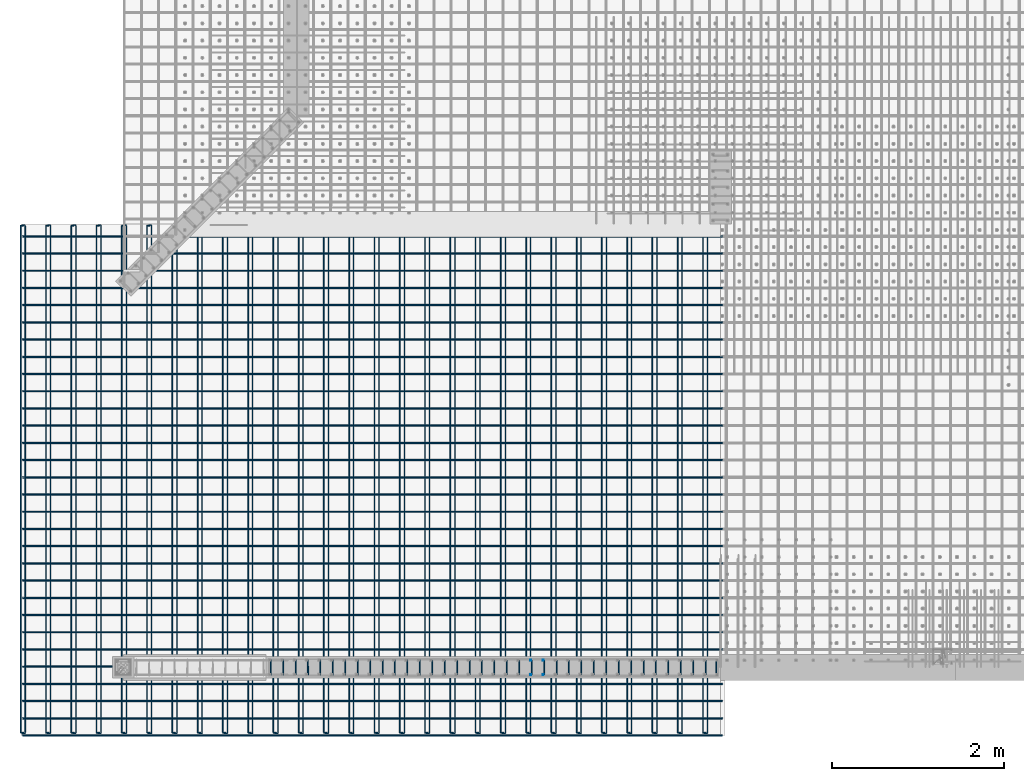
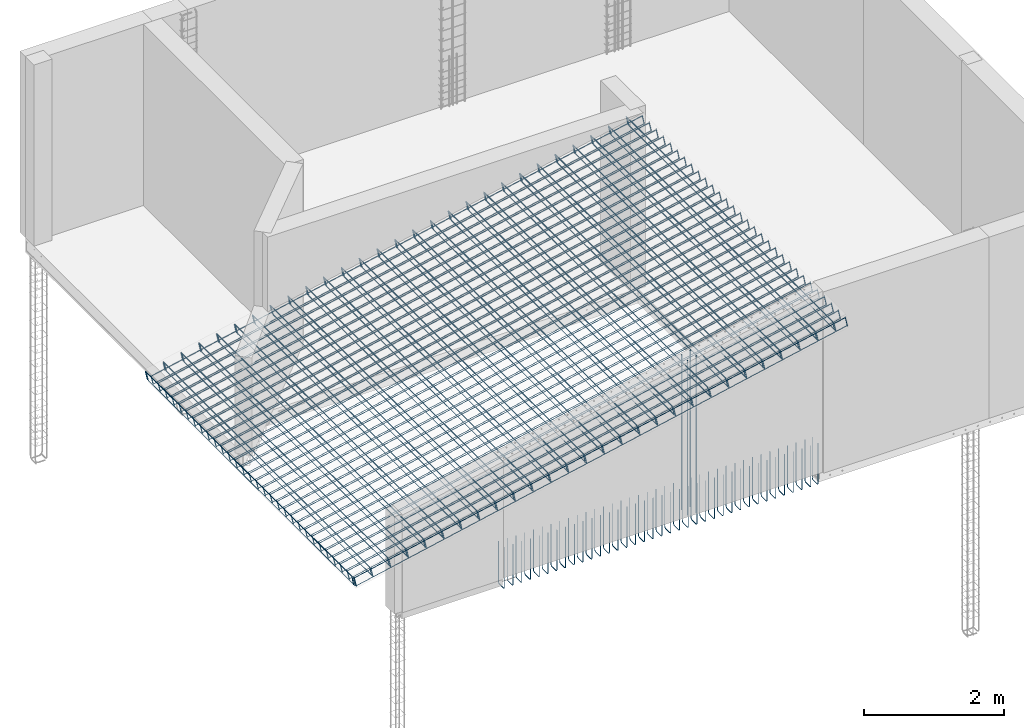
# One storey, part 3 of 17: 7 reinforcing bars.
"""IFC4 building model written with IfcOpenShell, lengths in metres."""

from ifc_helpers import new_model, entity, si_unit, frame, origin_with_axes, place, context, project, spatial, source, transform, mapped, element, save


model = new_model("IFC4")

# Units and contexts
model_context = context("Model", 3, precision=1e-05, world=origin_with_axes())
ifc_project = project(units=[si_unit("LENGTHUNIT", "METRE"), si_unit("AREAUNIT", "SQUARE_METRE"), si_unit("VOLUMEUNIT", "CUBIC_METRE"), si_unit("MASSUNIT", "GRAM", prefix="KILO"), si_unit("TIMEUNIT", "SECOND"), si_unit("PLANEANGLEUNIT", "RADIAN"), si_unit("SOLIDANGLEUNIT", "STERADIAN"), si_unit("THERMODYNAMICTEMPERATUREUNIT", "DEGREE_CELSIUS")], contexts=[model_context])

# Site, building, storey
placement_1 = place(None, origin_with_axes())
site = spatial("IfcSite", under=ifc_project, at=placement_1, Name="Italia", CompositionType="ELEMENT")
building = spatial("IfcBuilding", under=site, at=placement_1, Name="Abitazione", CompositionType="ELEMENT")
storey_placement = place(None, frame((0.0, 0.0, 3.569999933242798), z_axis=(0.0, 0.0, 1.0), x_axis=(1.0, 0.0, 0.0)))
storey = spatial("IfcBuildingStorey", under=building, at=storey_placement, Name="Storey 1", CompositionType="ELEMENT", Elevation=3.569999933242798)

# Reinforcing bars
shared_shape_1 = source(origin_with_axes(), model_context, "Body", "AdvancedSweptSolid", [
    entity("IfcSweptDiskSolid", entity("IfcIndexedPolyCurve", entity("IfcCartesianPointList3D", [[8.077, 0.874, 4.07], [8.077, 0.874, 3.375], [8.077, 0.871716, 3.36352], [8.077, 0.865213, 3.35379], [8.077, 0.855481, 3.34728], [8.077, 0.844, 3.345], [8.077, 0.774, 3.345]]), [entity("IfcLineIndex", [1, 2]), entity("IfcLineIndex", [2, 3]), entity("IfcLineIndex", [3, 4]), entity("IfcLineIndex", [4, 5]), entity("IfcLineIndex", [5, 6]), entity("IfcLineIndex", [6, 7])], False), 0.006),
])
placement_2 = place(placement_1, origin_with_axes())
reinforcing_bar_1_placement = place(placement_2, origin_with_axes())
element("IfcReinforcingBar", 1, at=reinforcing_bar_1_placement, inside=storey, BarLength=0.811821, CrossSectionArea=0.0001131, NominalDiameter=0.012, context=model_context, shape_type="MappedRepresentation", body=[
    mapped(shared_shape_1, transform((-2.575, 0.0, 0.0), x_axis=(1.0, 0.0, 0.0), y_axis=(0.0, 1.0, 0.0), z_axis=(0.0, 0.0, 1.0), scale=1.0)),
    mapped(shared_shape_1, transform((13.7234, 1.58, 0.0), x_axis=(-1.0, 0.0, 0.0), y_axis=(0.0, -1.0, 0.0), z_axis=(0.0, 0.0, 1.0), scale=1.0)),
    mapped(shared_shape_1, transform((14.4453, 1.58, 0.0), x_axis=(-1.0, 0.0, 0.0), y_axis=(0.0, -1.0, 0.0), z_axis=(0.0, 0.0, 1.0), scale=1.0)),
    mapped(shared_shape_1, transform((-1.70867, 0.0, 0.0), x_axis=(1.0, 0.0, 0.0), y_axis=(0.0, 1.0, 0.0), z_axis=(0.0, 0.0, 1.0), scale=1.0)),
    mapped(shared_shape_1, transform((14.5897, 1.58, 0.0), x_axis=(-1.0, 0.0, 0.0), y_axis=(0.0, -1.0, 0.0), z_axis=(0.0, 0.0, 1.0), scale=1.0)),
    mapped(shared_shape_1, transform((-1.56428, 0.0, 0.0), x_axis=(1.0, 0.0, 0.0), y_axis=(0.0, 1.0, 0.0), z_axis=(0.0, 0.0, 1.0), scale=1.0)),
    mapped(shared_shape_1, transform((14.7341, 1.58, 0.0), x_axis=(-1.0, 0.0, 0.0), y_axis=(0.0, -1.0, 0.0), z_axis=(0.0, 0.0, 1.0), scale=1.0)),
    mapped(shared_shape_1, transform((-1.41989, 0.0, 0.0), x_axis=(1.0, 0.0, 0.0), y_axis=(0.0, 1.0, 0.0), z_axis=(0.0, 0.0, 1.0), scale=1.0)),
    mapped(shared_shape_1, transform((14.8785, 1.58, 0.0), x_axis=(-1.0, 0.0, 0.0), y_axis=(0.0, -1.0, 0.0), z_axis=(0.0, 0.0, 1.0), scale=1.0)),
    mapped(shared_shape_1, transform((14.3009, 1.58, 0.0), x_axis=(-1.0, 0.0, 0.0), y_axis=(0.0, -1.0, 0.0), z_axis=(0.0, 0.0, 1.0), scale=1.0)),
    mapped(shared_shape_1, transform((-1.85306, 0.0, 0.0), x_axis=(1.0, 0.0, 0.0), y_axis=(0.0, 1.0, 0.0), z_axis=(0.0, 0.0, 1.0), scale=1.0)),
    mapped(shared_shape_1, transform((-2.43061, 0.0, 0.0), x_axis=(1.0, 0.0, 0.0), y_axis=(0.0, 1.0, 0.0), z_axis=(0.0, 0.0, 1.0), scale=1.0)),
    mapped(shared_shape_1, transform((13.8678, 1.58, 0.0), x_axis=(-1.0, 0.0, 0.0), y_axis=(0.0, -1.0, 0.0), z_axis=(0.0, 0.0, 1.0), scale=1.0)),
    mapped(shared_shape_1, transform((-2.28622, 0.0, 0.0), x_axis=(1.0, 0.0, 0.0), y_axis=(0.0, 1.0, 0.0), z_axis=(0.0, 0.0, 1.0), scale=1.0)),
    mapped(shared_shape_1, transform((14.0122, 1.58, 0.0), x_axis=(-1.0, 0.0, 0.0), y_axis=(0.0, -1.0, 0.0), z_axis=(0.0, 0.0, 1.0), scale=1.0)),
    mapped(shared_shape_1, transform((-2.14183, 0.0, 0.0), x_axis=(1.0, 0.0, 0.0), y_axis=(0.0, 1.0, 0.0), z_axis=(0.0, 0.0, 1.0), scale=1.0)),
    mapped(shared_shape_1, transform((14.1566, 1.58, 0.0), x_axis=(-1.0, 0.0, 0.0), y_axis=(0.0, -1.0, 0.0), z_axis=(0.0, 0.0, 1.0), scale=1.0)),
    mapped(shared_shape_1, transform((-1.99744, 0.0, 0.0), x_axis=(1.0, 0.0, 0.0), y_axis=(0.0, 1.0, 0.0), z_axis=(0.0, 0.0, 1.0), scale=1.0)),
    mapped(shared_shape_1, transform((-1.2755, 0.0, 0.0), x_axis=(1.0, 0.0, 0.0), y_axis=(0.0, 1.0, 0.0), z_axis=(0.0, 0.0, 1.0), scale=1.0)),
    mapped(shared_shape_1, transform((15.0229, 1.58, 0.0), x_axis=(-1.0, 0.0, 0.0), y_axis=(0.0, -1.0, 0.0), z_axis=(0.0, 0.0, 1.0), scale=1.0)),
    mapped(shared_shape_1, transform((15.7448, 1.58, 0.0), x_axis=(-1.0, 0.0, 0.0), y_axis=(0.0, -1.0, 0.0), z_axis=(0.0, 0.0, 1.0), scale=1.0)),
    mapped(shared_shape_1, transform((-0.409166, 0.0, 0.0), x_axis=(1.0, 0.0, 0.0), y_axis=(0.0, 1.0, 0.0), z_axis=(0.0, 0.0, 1.0), scale=1.0)),
    mapped(shared_shape_1, transform((15.8892, 1.58, 0.0), x_axis=(-1.0, 0.0, 0.0), y_axis=(0.0, -1.0, 0.0), z_axis=(0.0, 0.0, 1.0), scale=1.0)),
    mapped(shared_shape_1, transform((-0.264778, 0.0, 0.0), x_axis=(1.0, 0.0, 0.0), y_axis=(0.0, 1.0, 0.0), z_axis=(0.0, 0.0, 1.0), scale=1.0)),
    mapped(shared_shape_1, transform((16.0336, 1.58, 0.0), x_axis=(-1.0, 0.0, 0.0), y_axis=(0.0, -1.0, 0.0), z_axis=(0.0, 0.0, 1.0), scale=1.0)),
    mapped(shared_shape_1, transform((-0.120389, 0.0, 0.0), x_axis=(1.0, 0.0, 0.0), y_axis=(0.0, 1.0, 0.0), z_axis=(0.0, 0.0, 1.0), scale=1.0)),
    mapped(shared_shape_1, transform((16.154, 1.58, 0.0), x_axis=(-1.0, 0.0, 0.0), y_axis=(0.0, -1.0, 0.0), z_axis=(0.0, 0.0, 1.0), scale=1.0)),
    mapped(shared_shape_1, transform((15.6004, 1.58, 0.0), x_axis=(-1.0, 0.0, 0.0), y_axis=(0.0, -1.0, 0.0), z_axis=(0.0, 0.0, 1.0), scale=1.0)),
    mapped(shared_shape_1, transform((-0.553555, 0.0, 0.0), x_axis=(1.0, 0.0, 0.0), y_axis=(0.0, 1.0, 0.0), z_axis=(0.0, 0.0, 1.0), scale=1.0)),
    mapped(shared_shape_1, transform((-1.13111, 0.0, 0.0), x_axis=(1.0, 0.0, 0.0), y_axis=(0.0, 1.0, 0.0), z_axis=(0.0, 0.0, 1.0), scale=1.0)),
    mapped(shared_shape_1, transform((15.1673, 1.58, 0.0), x_axis=(-1.0, 0.0, 0.0), y_axis=(0.0, -1.0, 0.0), z_axis=(0.0, 0.0, 1.0), scale=1.0)),
    mapped(shared_shape_1, transform((-0.986722, 0.0, 0.0), x_axis=(1.0, 0.0, 0.0), y_axis=(0.0, 1.0, 0.0), z_axis=(0.0, 0.0, 1.0), scale=1.0)),
    mapped(shared_shape_1, transform((15.3117, 1.58, 0.0), x_axis=(-1.0, 0.0, 0.0), y_axis=(0.0, -1.0, 0.0), z_axis=(0.0, 0.0, 1.0), scale=1.0)),
    mapped(shared_shape_1, transform((-0.842333, 0.0, 0.0), x_axis=(1.0, 0.0, 0.0), y_axis=(0.0, 1.0, 0.0), z_axis=(0.0, 0.0, 1.0), scale=1.0)),
    mapped(shared_shape_1, transform((15.4561, 1.58, 0.0), x_axis=(-1.0, 0.0, 0.0), y_axis=(0.0, -1.0, 0.0), z_axis=(0.0, 0.0, 1.0), scale=1.0)),
    mapped(shared_shape_1, transform((-0.697944, 0.0, 0.0), x_axis=(1.0, 0.0, 0.0), y_axis=(0.0, 1.0, 0.0), z_axis=(0.0, 0.0, 1.0), scale=1.0)),
    mapped(shared_shape_1, transform((0.0, 0.0, 0.0), x_axis=(1.0, 0.0, 0.0), y_axis=(0.0, 1.0, 0.0), z_axis=(0.0, 0.0, 1.0), scale=1.0)),
    mapped(shared_shape_1, transform((10.98, 1.58, 0.0), x_axis=(-1.0, 0.0, 0.0), y_axis=(0.0, -1.0, 0.0), z_axis=(0.0, 0.0, 1.0), scale=1.0)),
    mapped(shared_shape_1, transform((11.7019, 1.58, 0.0), x_axis=(-1.0, 0.0, 0.0), y_axis=(0.0, -1.0, 0.0), z_axis=(0.0, 0.0, 1.0), scale=1.0)),
    mapped(shared_shape_1, transform((-4.45206, 0.0, 0.0), x_axis=(1.0, 0.0, 0.0), y_axis=(0.0, 1.0, 0.0), z_axis=(0.0, 0.0, 1.0), scale=1.0)),
    mapped(shared_shape_1, transform((11.8463, 1.58, 0.0), x_axis=(-1.0, 0.0, 0.0), y_axis=(0.0, -1.0, 0.0), z_axis=(0.0, 0.0, 1.0), scale=1.0)),
    mapped(shared_shape_1, transform((-4.30767, 0.0, 0.0), x_axis=(1.0, 0.0, 0.0), y_axis=(0.0, 1.0, 0.0), z_axis=(0.0, 0.0, 1.0), scale=1.0)),
    mapped(shared_shape_1, transform((11.9907, 1.58, 0.0), x_axis=(-1.0, 0.0, 0.0), y_axis=(0.0, -1.0, 0.0), z_axis=(0.0, 0.0, 1.0), scale=1.0)),
    mapped(shared_shape_1, transform((-4.16328, 0.0, 0.0), x_axis=(1.0, 0.0, 0.0), y_axis=(0.0, 1.0, 0.0), z_axis=(0.0, 0.0, 1.0), scale=1.0)),
    mapped(shared_shape_1, transform((12.1351, 1.58, 0.0), x_axis=(-1.0, 0.0, 0.0), y_axis=(0.0, -1.0, 0.0), z_axis=(0.0, 0.0, 1.0), scale=1.0)),
    mapped(shared_shape_1, transform((11.5576, 1.58, 0.0), x_axis=(-1.0, 0.0, 0.0), y_axis=(0.0, -1.0, 0.0), z_axis=(0.0, 0.0, 1.0), scale=1.0)),
    mapped(shared_shape_1, transform((-4.59644, 0.0, 0.0), x_axis=(1.0, 0.0, 0.0), y_axis=(0.0, 1.0, 0.0), z_axis=(0.0, 0.0, 1.0), scale=1.0)),
    mapped(shared_shape_1, transform((-5.174, 0.0, 0.0), x_axis=(1.0, 0.0, 0.0), y_axis=(0.0, 1.0, 0.0), z_axis=(0.0, 0.0, 1.0), scale=1.0)),
    mapped(shared_shape_1, transform((11.1244, 1.58, 0.0), x_axis=(-1.0, 0.0, 0.0), y_axis=(0.0, -1.0, 0.0), z_axis=(0.0, 0.0, 1.0), scale=1.0)),
    mapped(shared_shape_1, transform((-5.02961, 0.0, 0.0), x_axis=(1.0, 0.0, 0.0), y_axis=(0.0, 1.0, 0.0), z_axis=(0.0, 0.0, 1.0), scale=1.0)),
    mapped(shared_shape_1, transform((11.2688, 1.58, 0.0), x_axis=(-1.0, 0.0, 0.0), y_axis=(0.0, -1.0, 0.0), z_axis=(0.0, 0.0, 1.0), scale=1.0)),
    mapped(shared_shape_1, transform((-4.88522, 0.0, 0.0), x_axis=(1.0, 0.0, 0.0), y_axis=(0.0, 1.0, 0.0), z_axis=(0.0, 0.0, 1.0), scale=1.0)),
    mapped(shared_shape_1, transform((11.4132, 1.58, 0.0), x_axis=(-1.0, 0.0, 0.0), y_axis=(0.0, -1.0, 0.0), z_axis=(0.0, 0.0, 1.0), scale=1.0)),
    mapped(shared_shape_1, transform((-4.74083, 0.0, 0.0), x_axis=(1.0, 0.0, 0.0), y_axis=(0.0, 1.0, 0.0), z_axis=(0.0, 0.0, 1.0), scale=1.0)),
    mapped(shared_shape_1, transform((-4.01889, 0.0, 0.0), x_axis=(1.0, 0.0, 0.0), y_axis=(0.0, 1.0, 0.0), z_axis=(0.0, 0.0, 1.0), scale=1.0)),
    mapped(shared_shape_1, transform((12.2795, 1.58, 0.0), x_axis=(-1.0, 0.0, 0.0), y_axis=(0.0, -1.0, 0.0), z_axis=(0.0, 0.0, 1.0), scale=1.0)),
    mapped(shared_shape_1, transform((13.0014, 1.58, 0.0), x_axis=(-1.0, 0.0, 0.0), y_axis=(0.0, -1.0, 0.0), z_axis=(0.0, 0.0, 1.0), scale=1.0)),
    mapped(shared_shape_1, transform((-3.15256, 0.0, 0.0), x_axis=(1.0, 0.0, 0.0), y_axis=(0.0, 1.0, 0.0), z_axis=(0.0, 0.0, 1.0), scale=1.0)),
    mapped(shared_shape_1, transform((13.1458, 1.58, 0.0), x_axis=(-1.0, 0.0, 0.0), y_axis=(0.0, -1.0, 0.0), z_axis=(0.0, 0.0, 1.0), scale=1.0)),
    mapped(shared_shape_1, transform((-3.00817, 0.0, 0.0), x_axis=(1.0, 0.0, 0.0), y_axis=(0.0, 1.0, 0.0), z_axis=(0.0, 0.0, 1.0), scale=1.0)),
    mapped(shared_shape_1, transform((13.2902, 1.58, 0.0), x_axis=(-1.0, 0.0, 0.0), y_axis=(0.0, -1.0, 0.0), z_axis=(0.0, 0.0, 1.0), scale=1.0)),
    mapped(shared_shape_1, transform((-2.86378, 0.0, 0.0), x_axis=(1.0, 0.0, 0.0), y_axis=(0.0, 1.0, 0.0), z_axis=(0.0, 0.0, 1.0), scale=1.0)),
    mapped(shared_shape_1, transform((13.4346, 1.58, 0.0), x_axis=(-1.0, 0.0, 0.0), y_axis=(0.0, -1.0, 0.0), z_axis=(0.0, 0.0, 1.0), scale=1.0)),
    mapped(shared_shape_1, transform((12.8571, 1.58, 0.0), x_axis=(-1.0, 0.0, 0.0), y_axis=(0.0, -1.0, 0.0), z_axis=(0.0, 0.0, 1.0), scale=1.0)),
    mapped(shared_shape_1, transform((-3.29694, 0.0, 0.0), x_axis=(1.0, 0.0, 0.0), y_axis=(0.0, 1.0, 0.0), z_axis=(0.0, 0.0, 1.0), scale=1.0)),
    mapped(shared_shape_1, transform((-3.8745, 0.0, 0.0), x_axis=(1.0, 0.0, 0.0), y_axis=(0.0, 1.0, 0.0), z_axis=(0.0, 0.0, 1.0), scale=1.0)),
    mapped(shared_shape_1, transform((12.4239, 1.58, 0.0), x_axis=(-1.0, 0.0, 0.0), y_axis=(0.0, -1.0, 0.0), z_axis=(0.0, 0.0, 1.0), scale=1.0)),
    mapped(shared_shape_1, transform((-3.73011, 0.0, 0.0), x_axis=(1.0, 0.0, 0.0), y_axis=(0.0, 1.0, 0.0), z_axis=(0.0, 0.0, 1.0), scale=1.0)),
    mapped(shared_shape_1, transform((12.5683, 1.58, 0.0), x_axis=(-1.0, 0.0, 0.0), y_axis=(0.0, -1.0, 0.0), z_axis=(0.0, 0.0, 1.0), scale=1.0)),
    mapped(shared_shape_1, transform((-3.58572, 0.0, 0.0), x_axis=(1.0, 0.0, 0.0), y_axis=(0.0, 1.0, 0.0), z_axis=(0.0, 0.0, 1.0), scale=1.0)),
    mapped(shared_shape_1, transform((12.7127, 1.58, 0.0), x_axis=(-1.0, 0.0, 0.0), y_axis=(0.0, -1.0, 0.0), z_axis=(0.0, 0.0, 1.0), scale=1.0)),
    mapped(shared_shape_1, transform((-3.44133, 0.0, 0.0), x_axis=(1.0, 0.0, 0.0), y_axis=(0.0, 1.0, 0.0), z_axis=(0.0, 0.0, 1.0), scale=1.0)),
    mapped(shared_shape_1, transform((-2.71939, 0.0, 0.0), x_axis=(1.0, 0.0, 0.0), y_axis=(0.0, 1.0, 0.0), z_axis=(0.0, 0.0, 1.0), scale=1.0)),
    mapped(shared_shape_1, transform((13.579, 1.58, 0.0), x_axis=(-1.0, 0.0, 0.0), y_axis=(0.0, -1.0, 0.0), z_axis=(0.0, 0.0, 1.0), scale=1.0)),
])
shared_shape_2 = source(origin_with_axes(), model_context, "Body", "AdvancedSweptSolid", [
    entity("IfcSweptDiskSolid", entity("IfcIndexedPolyCurve", entity("IfcCartesianPointList3D", [[6.06756, 0.874, 3.57], [6.06756, 0.874, 6.2962]]), [entity("IfcLineIndex", [1, 2])], False), 0.006),
])
reinforcing_bar_2_placement = place(placement_2, origin_with_axes())
element("IfcReinforcingBar", 2, at=reinforcing_bar_2_placement, inside=storey, BarLength=2.7262, CrossSectionArea=0.0001131, NominalDiameter=0.012, context=model_context, shape_type="MappedRepresentation", body=[
    mapped(shared_shape_2, transform((0.0, -0.168, 0.0), x_axis=(1.0, 0.0, 0.0), y_axis=(0.0, 1.0, 0.0), z_axis=(0.0, 0.0, 1.0), scale=1.0)),
    mapped(shared_shape_2, transform((0.0, 0.0, 0.0), x_axis=(1.0, 0.0, 0.0), y_axis=(0.0, 1.0, 0.0), z_axis=(0.0, 0.0, 1.0), scale=1.0)),
])
shared_shape_3 = source(origin_with_axes(), model_context, "Body", "AdvancedSweptSolid", [
    entity("IfcSweptDiskSolid", entity("IfcIndexedPolyCurve", entity("IfcCartesianPointList3D", [[5.92317, 0.874, 3.57], [5.92317, 0.874, 6.26583]]), [entity("IfcLineIndex", [1, 2])], False), 0.006),
])
reinforcing_bar_3_placement = place(placement_2, origin_with_axes())
element("IfcReinforcingBar", 3, at=reinforcing_bar_3_placement, inside=storey, BarLength=2.69583, CrossSectionArea=0.0001131, NominalDiameter=0.012, context=model_context, shape_type="MappedRepresentation", body=[
    mapped(shared_shape_3, transform((0.0, -0.168, 0.0), x_axis=(1.0, 0.0, 0.0), y_axis=(0.0, 1.0, 0.0), z_axis=(0.0, 0.0, 1.0), scale=1.0)),
    mapped(shared_shape_3, transform((0.0, 0.0, 0.0), x_axis=(1.0, 0.0, 0.0), y_axis=(0.0, 1.0, 0.0), z_axis=(0.0, 0.0, 1.0), scale=1.0)),
])
shared_shape_4 = source(origin_with_axes(), model_context, "Body", "AdvancedSweptSolid", [
    entity("IfcSweptDiskSolid", entity("IfcIndexedPolyCurve", entity("IfcCartesianPointList3D", [[0.0316893, 5.924, 4.83046], [0.000403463, 5.924, 4.97921], [-0.000384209, 5.92324, 4.98295], [-0.00105196, 5.92107, 4.98613], [-0.00149814, 5.91783, 4.98825], [-0.00165482, 5.914, 4.989], [-0.00165409, 0.0419993, 4.989], [-0.00149741, 0.0381727, 4.98825], [-0.00105123, 0.0349283, 4.98613], [-0.000383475, 0.0327606, 4.98295], [0.000404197, 0.0319991, 4.97921], [0.03169, 0.0319991, 4.83046]]), [entity("IfcLineIndex", [1, 2]), entity("IfcLineIndex", [2, 3]), entity("IfcLineIndex", [3, 4]), entity("IfcLineIndex", [4, 5]), entity("IfcLineIndex", [5, 6]), entity("IfcLineIndex", [6, 7]), entity("IfcLineIndex", [7, 8]), entity("IfcLineIndex", [8, 9]), entity("IfcLineIndex", [9, 10]), entity("IfcLineIndex", [10, 11]), entity("IfcLineIndex", [11, 12])], False), 0.008),
])
reinforcing_bar_4_placement = place(placement_2, origin_with_axes())
element("IfcReinforcingBar", 4, at=reinforcing_bar_4_placement, inside=storey, BarLength=6.20721, CrossSectionArea=0.00020106, NominalDiameter=0.016, context=model_context, shape_type="MappedRepresentation", body=[
    mapped(shared_shape_4, transform((0.0, 0.0, 0.0), x_axis=(1.0, 0.0, 0.0), y_axis=(0.0, 1.0, 0.0), z_axis=(0.0, 0.0, 1.0), scale=1.0)),
    mapped(shared_shape_4, transform((0.587153, 0.0, 0.123497), x_axis=(1.0, 0.0, 0.0), y_axis=(0.0, 1.0, 0.0), z_axis=(0.0, 0.0, 1.0), scale=1.0)),
    mapped(shared_shape_4, transform((0.293577, 0.0, 0.0617485), x_axis=(1.0, 0.0, 0.0), y_axis=(0.0, 1.0, 0.0), z_axis=(0.0, 0.0, 1.0), scale=1.0)),
    mapped(shared_shape_4, transform((0.880729, 0.0, 0.185246), x_axis=(1.0, 0.0, 0.0), y_axis=(0.0, 1.0, 0.0), z_axis=(0.0, 0.0, 1.0), scale=1.0)),
    mapped(shared_shape_4, transform((1.46788, 0.0, 0.308743), x_axis=(1.0, 0.0, 0.0), y_axis=(0.0, 1.0, 0.0), z_axis=(0.0, 0.0, 1.0), scale=1.0)),
    mapped(shared_shape_4, transform((1.1743, 0.0, 0.246994), x_axis=(1.0, 0.0, 0.0), y_axis=(0.0, 1.0, 0.0), z_axis=(0.0, 0.0, 1.0), scale=1.0)),
    mapped(shared_shape_4, transform((1.76146, 0.0, 0.370492), x_axis=(1.0, 0.0, 0.0), y_axis=(0.0, 1.0, 0.0), z_axis=(0.0, 0.0, 1.0), scale=1.0)),
    mapped(shared_shape_4, transform((4.11007, 0.0, 0.86448), x_axis=(1.0, 0.0, 0.0), y_axis=(0.0, 1.0, 0.0), z_axis=(0.0, 0.0, 1.0), scale=1.0)),
    mapped(shared_shape_4, transform((4.69722, 0.0, 0.987977), x_axis=(1.0, 0.0, 0.0), y_axis=(0.0, 1.0, 0.0), z_axis=(0.0, 0.0, 1.0), scale=1.0)),
    mapped(shared_shape_4, transform((4.40364, 0.0, 0.926228), x_axis=(1.0, 0.0, 0.0), y_axis=(0.0, 1.0, 0.0), z_axis=(0.0, 0.0, 1.0), scale=1.0)),
    mapped(shared_shape_4, transform((4.9908, 0.0, 1.04973), x_axis=(1.0, 0.0, 0.0), y_axis=(0.0, 1.0, 0.0), z_axis=(0.0, 0.0, 1.0), scale=1.0)),
    mapped(shared_shape_4, transform((5.57795, 0.0, 1.17322), x_axis=(1.0, 0.0, 0.0), y_axis=(0.0, 1.0, 0.0), z_axis=(0.0, 0.0, 1.0), scale=1.0)),
    mapped(shared_shape_4, transform((5.28437, 0.0, 1.11147), x_axis=(1.0, 0.0, 0.0), y_axis=(0.0, 1.0, 0.0), z_axis=(0.0, 0.0, 1.0), scale=1.0)),
    mapped(shared_shape_4, transform((3.8165, 0.0, 0.802731), x_axis=(1.0, 0.0, 0.0), y_axis=(0.0, 1.0, 0.0), z_axis=(0.0, 0.0, 1.0), scale=1.0)),
    mapped(shared_shape_4, transform((2.34862, 0.0, 0.493988), x_axis=(1.0, 0.0, 0.0), y_axis=(0.0, 1.0, 0.0), z_axis=(0.0, 0.0, 1.0), scale=1.0)),
    mapped(shared_shape_4, transform((2.05504, 0.0, 0.43224), x_axis=(1.0, 0.0, 0.0), y_axis=(0.0, 1.0, 0.0), z_axis=(0.0, 0.0, 1.0), scale=1.0)),
    mapped(shared_shape_4, transform((2.6422, 0.0, 0.555737), x_axis=(1.0, 0.0, 0.0), y_axis=(0.0, 1.0, 0.0), z_axis=(0.0, 0.0, 1.0), scale=1.0)),
    mapped(shared_shape_4, transform((3.22935, 0.0, 0.679234), x_axis=(1.0, 0.0, 0.0), y_axis=(0.0, 1.0, 0.0), z_axis=(0.0, 0.0, 1.0), scale=1.0)),
    mapped(shared_shape_4, transform((2.93577, 0.0, 0.617486), x_axis=(1.0, 0.0, 0.0), y_axis=(0.0, 1.0, 0.0), z_axis=(0.0, 0.0, 1.0), scale=1.0)),
    mapped(shared_shape_4, transform((3.52292, 0.0, 0.740983), x_axis=(1.0, 0.0, 0.0), y_axis=(0.0, 1.0, 0.0), z_axis=(0.0, 0.0, 1.0), scale=1.0)),
    mapped(shared_shape_4, transform((6.1651, 0.0, 1.29672), x_axis=(1.0, 0.0, 0.0), y_axis=(0.0, 1.0, 0.0), z_axis=(0.0, 0.0, 1.0), scale=1.0)),
    mapped(shared_shape_4, transform((7.92657, 0.0, 1.66721), x_axis=(1.0, 0.0, 0.0), y_axis=(0.0, 1.0, 0.0), z_axis=(0.0, 0.0, 1.0), scale=1.0)),
    mapped(shared_shape_4, transform((6.45868, 0.0, 1.35847), x_axis=(1.0, 0.0, 0.0), y_axis=(0.0, 1.0, 0.0), z_axis=(0.0, 0.0, 1.0), scale=1.0)),
    mapped(shared_shape_4, transform((7.04584, 0.0, 1.48197), x_axis=(1.0, 0.0, 0.0), y_axis=(0.0, 1.0, 0.0), z_axis=(0.0, 0.0, 1.0), scale=1.0)),
    mapped(shared_shape_4, transform((6.75226, 0.0, 1.42022), x_axis=(1.0, 0.0, 0.0), y_axis=(0.0, 1.0, 0.0), z_axis=(0.0, 0.0, 1.0), scale=1.0)),
    mapped(shared_shape_4, transform((7.33941, 0.0, 1.54371), x_axis=(1.0, 0.0, 0.0), y_axis=(0.0, 1.0, 0.0), z_axis=(0.0, 0.0, 1.0), scale=1.0)),
    mapped(shared_shape_4, transform((5.87153, 0.0, 1.23497), x_axis=(1.0, 0.0, 0.0), y_axis=(0.0, 1.0, 0.0), z_axis=(0.0, 0.0, 1.0), scale=1.0)),
    mapped(shared_shape_4, transform((7.63299, 0.0, 1.60546), x_axis=(1.0, 0.0, 0.0), y_axis=(0.0, 1.0, 0.0), z_axis=(0.0, 0.0, 1.0), scale=1.0)),
])
shared_shape_5 = source(origin_with_axes(), model_context, "Body", "AdvancedSweptSolid", [
    entity("IfcSweptDiskSolid", entity("IfcIndexedPolyCurve", entity("IfcCartesianPointList3D", [[0.0545546, 5.794, 4.81892], [0.0232687, 5.794, 4.96767], [0.023226, 5.794, 4.97157], [0.0246795, 5.794, 4.97519], [0.0274081, 5.794, 4.97798], [0.0309963, 5.794, 4.97951], [8.1062, 5.794, 6.67799], [8.1101, 5.794, 6.67803], [8.11372, 5.794, 6.67658], [8.11651, 5.794, 6.67385], [8.11804, 5.794, 6.67026], [8.14933, 5.794, 6.52151]]), [entity("IfcLineIndex", [1, 2]), entity("IfcLineIndex", [2, 3]), entity("IfcLineIndex", [3, 4]), entity("IfcLineIndex", [4, 5]), entity("IfcLineIndex", [5, 6]), entity("IfcLineIndex", [6, 7]), entity("IfcLineIndex", [7, 8]), entity("IfcLineIndex", [8, 9]), entity("IfcLineIndex", [9, 10]), entity("IfcLineIndex", [10, 11]), entity("IfcLineIndex", [11, 12])], False), 0.006),
])
reinforcing_bar_5_placement = place(placement_2, origin_with_axes())
element("IfcReinforcingBar", 5, at=reinforcing_bar_5_placement, inside=storey, BarLength=8.5871, CrossSectionArea=0.0001131, NominalDiameter=0.012, context=model_context, shape_type="MappedRepresentation", body=[
    mapped(shared_shape_5, transform((0.0, -1.6, 0.0), x_axis=(1.0, 0.0, 0.0), y_axis=(0.0, 1.0, 0.0), z_axis=(0.0, 0.0, 1.0), scale=1.0)),
    mapped(shared_shape_5, transform((0.0, -2.8, 0.0), x_axis=(1.0, 0.0, 0.0), y_axis=(0.0, 1.0, 0.0), z_axis=(0.0, 0.0, 1.0), scale=1.0)),
    mapped(shared_shape_5, transform((0.0, -2.6, 0.0), x_axis=(1.0, 0.0, 0.0), y_axis=(0.0, 1.0, 0.0), z_axis=(0.0, 0.0, 1.0), scale=1.0)),
    mapped(shared_shape_5, transform((0.0, -2.2, 0.0), x_axis=(1.0, 0.0, 0.0), y_axis=(0.0, 1.0, 0.0), z_axis=(0.0, 0.0, 1.0), scale=1.0)),
    mapped(shared_shape_5, transform((0.0, -2.0, 0.0), x_axis=(1.0, 0.0, 0.0), y_axis=(0.0, 1.0, 0.0), z_axis=(0.0, 0.0, 1.0), scale=1.0)),
    mapped(shared_shape_5, transform((0.0, -1.8, 0.0), x_axis=(1.0, 0.0, 0.0), y_axis=(0.0, 1.0, 0.0), z_axis=(0.0, 0.0, 1.0), scale=1.0)),
    mapped(shared_shape_5, transform((0.0, -1.4, 0.0), x_axis=(1.0, 0.0, 0.0), y_axis=(0.0, 1.0, 0.0), z_axis=(0.0, 0.0, 1.0), scale=1.0)),
    mapped(shared_shape_5, transform((0.0, -1.2, 0.0), x_axis=(1.0, 0.0, 0.0), y_axis=(0.0, 1.0, 0.0), z_axis=(0.0, 0.0, 1.0), scale=1.0)),
    mapped(shared_shape_5, transform((0.0, -2.4, 0.0), x_axis=(1.0, 0.0, 0.0), y_axis=(0.0, 1.0, 0.0), z_axis=(0.0, 0.0, 1.0), scale=1.0)),
    mapped(shared_shape_5, transform((0.0, -0.599999, 0.0), x_axis=(1.0, 0.0, 0.0), y_axis=(0.0, 1.0, 0.0), z_axis=(0.0, 0.0, 1.0), scale=1.0)),
    mapped(shared_shape_5, transform((0.0, -0.4, 0.0), x_axis=(1.0, 0.0, 0.0), y_axis=(0.0, 1.0, 0.0), z_axis=(0.0, 0.0, 1.0), scale=1.0)),
    mapped(shared_shape_5, transform((0.0, -0.2, 0.0), x_axis=(1.0, 0.0, 0.0), y_axis=(0.0, 1.0, 0.0), z_axis=(0.0, 0.0, 1.0), scale=1.0)),
    mapped(shared_shape_5, transform((0.0, -5.8, 0.0), x_axis=(1.0, 0.0, 0.0), y_axis=(0.0, 1.0, 0.0), z_axis=(0.0, 0.0, 1.0), scale=1.0)),
    mapped(shared_shape_5, transform((0.0, -0.999999, 0.0), x_axis=(1.0, 0.0, 0.0), y_axis=(0.0, 1.0, 0.0), z_axis=(0.0, 0.0, 1.0), scale=1.0)),
    mapped(shared_shape_5, transform((0.0, -0.799999, 0.0), x_axis=(1.0, 0.0, 0.0), y_axis=(0.0, 1.0, 0.0), z_axis=(0.0, 0.0, 1.0), scale=1.0)),
    mapped(shared_shape_5, transform((0.0, -5.0, 0.0), x_axis=(1.0, 0.0, 0.0), y_axis=(0.0, 1.0, 0.0), z_axis=(0.0, 0.0, 1.0), scale=1.0)),
    mapped(shared_shape_5, transform((0.0, -4.8, 0.0), x_axis=(1.0, 0.0, 0.0), y_axis=(0.0, 1.0, 0.0), z_axis=(0.0, 0.0, 1.0), scale=1.0)),
    mapped(shared_shape_5, transform((0.0, 0.0, 0.0), x_axis=(1.0, 0.0, 0.0), y_axis=(0.0, 1.0, 0.0), z_axis=(0.0, 0.0, 1.0), scale=1.0)),
    mapped(shared_shape_5, transform((0.0, -5.6, 0.0), x_axis=(1.0, 0.0, 0.0), y_axis=(0.0, 1.0, 0.0), z_axis=(0.0, 0.0, 1.0), scale=1.0)),
    mapped(shared_shape_5, transform((0.0, -5.4, 0.0), x_axis=(1.0, 0.0, 0.0), y_axis=(0.0, 1.0, 0.0), z_axis=(0.0, 0.0, 1.0), scale=1.0)),
    mapped(shared_shape_5, transform((0.0, -5.2, 0.0), x_axis=(1.0, 0.0, 0.0), y_axis=(0.0, 1.0, 0.0), z_axis=(0.0, 0.0, 1.0), scale=1.0)),
    mapped(shared_shape_5, transform((0.0, -3.4, 0.0), x_axis=(1.0, 0.0, 0.0), y_axis=(0.0, 1.0, 0.0), z_axis=(0.0, 0.0, 1.0), scale=1.0)),
    mapped(shared_shape_5, transform((0.0, -4.6, 0.0), x_axis=(1.0, 0.0, 0.0), y_axis=(0.0, 1.0, 0.0), z_axis=(0.0, 0.0, 1.0), scale=1.0)),
    mapped(shared_shape_5, transform((0.0, -4.4, 0.0), x_axis=(1.0, 0.0, 0.0), y_axis=(0.0, 1.0, 0.0), z_axis=(0.0, 0.0, 1.0), scale=1.0)),
    mapped(shared_shape_5, transform((0.0, -4.0, 0.0), x_axis=(1.0, 0.0, 0.0), y_axis=(0.0, 1.0, 0.0), z_axis=(0.0, 0.0, 1.0), scale=1.0)),
    mapped(shared_shape_5, transform((0.0, -3.8, 0.0), x_axis=(1.0, 0.0, 0.0), y_axis=(0.0, 1.0, 0.0), z_axis=(0.0, 0.0, 1.0), scale=1.0)),
    mapped(shared_shape_5, transform((0.0, -3.6, 0.0), x_axis=(1.0, 0.0, 0.0), y_axis=(0.0, 1.0, 0.0), z_axis=(0.0, 0.0, 1.0), scale=1.0)),
    mapped(shared_shape_5, transform((0.0, -3.2, 0.0), x_axis=(1.0, 0.0, 0.0), y_axis=(0.0, 1.0, 0.0), z_axis=(0.0, 0.0, 1.0), scale=1.0)),
    mapped(shared_shape_5, transform((0.0, -3.0, 0.0), x_axis=(1.0, 0.0, 0.0), y_axis=(0.0, 1.0, 0.0), z_axis=(0.0, 0.0, 1.0), scale=1.0)),
    mapped(shared_shape_5, transform((0.0, -4.2, 0.0), x_axis=(1.0, 0.0, 0.0), y_axis=(0.0, 1.0, 0.0), z_axis=(0.0, 0.0, 1.0), scale=1.0)),
])
shared_shape_6 = source(origin_with_axes(), model_context, "Body", "AdvancedSweptSolid", [
    entity("IfcSweptDiskSolid", entity("IfcIndexedPolyCurve", entity("IfcCartesianPointList3D", [[0.0165737, 5.928, 4.97035], [0.0490945, 5.928, 4.81573], [0.0498822, 5.92724, 4.81199], [0.05055, 5.92507, 4.80881], [0.0509961, 5.92183, 4.80669], [0.0511528, 5.918, 4.80595], [0.0511536, 0.0339995, 4.80595], [0.0509969, 0.0301728, 4.80669], [0.0505507, 0.0269284, 4.80881], [0.0498829, 0.0247607, 4.81199], [0.0490953, 0.0239992, 4.81573], [0.0165745, 0.0239992, 4.97035]]), [entity("IfcLineIndex", [1, 2]), entity("IfcLineIndex", [2, 3]), entity("IfcLineIndex", [3, 4]), entity("IfcLineIndex", [4, 5]), entity("IfcLineIndex", [5, 6]), entity("IfcLineIndex", [6, 7]), entity("IfcLineIndex", [7, 8]), entity("IfcLineIndex", [8, 9]), entity("IfcLineIndex", [9, 10]), entity("IfcLineIndex", [10, 11]), entity("IfcLineIndex", [11, 12])], False), 0.006),
])
reinforcing_bar_6_placement = place(placement_2, origin_with_axes())
element("IfcReinforcingBar", 6, at=reinforcing_bar_6_placement, inside=storey, BarLength=6.23121, CrossSectionArea=0.0001131, NominalDiameter=0.012, context=model_context, shape_type="MappedRepresentation", body=[
    mapped(shared_shape_6, transform((0.0, 0.0, 0.0), x_axis=(1.0, 0.0, 0.0), y_axis=(0.0, 1.0, 0.0), z_axis=(0.0, 0.0, 1.0), scale=1.0)),
    mapped(shared_shape_6, transform((0.587152, 0.0, 0.123497), x_axis=(1.0, 0.0, 0.0), y_axis=(0.0, 1.0, 0.0), z_axis=(0.0, 0.0, 1.0), scale=1.0)),
    mapped(shared_shape_6, transform((0.293576, 0.0, 0.0617485), x_axis=(1.0, 0.0, 0.0), y_axis=(0.0, 1.0, 0.0), z_axis=(0.0, 0.0, 1.0), scale=1.0)),
    mapped(shared_shape_6, transform((0.880728, 0.0, 0.185245), x_axis=(1.0, 0.0, 0.0), y_axis=(0.0, 1.0, 0.0), z_axis=(0.0, 0.0, 1.0), scale=1.0)),
    mapped(shared_shape_6, transform((1.46788, 0.0, 0.308742), x_axis=(1.0, 0.0, 0.0), y_axis=(0.0, 1.0, 0.0), z_axis=(0.0, 0.0, 1.0), scale=1.0)),
    mapped(shared_shape_6, transform((1.1743, 0.0, 0.246994), x_axis=(1.0, 0.0, 0.0), y_axis=(0.0, 1.0, 0.0), z_axis=(0.0, 0.0, 1.0), scale=1.0)),
    mapped(shared_shape_6, transform((1.76145, 0.0, 0.370491), x_axis=(1.0, 0.0, 0.0), y_axis=(0.0, 1.0, 0.0), z_axis=(0.0, 0.0, 1.0), scale=1.0)),
    mapped(shared_shape_6, transform((4.11007, 0.0, 0.864479), x_axis=(1.0, 0.0, 0.0), y_axis=(0.0, 1.0, 0.0), z_axis=(0.0, 0.0, 1.0), scale=1.0)),
    mapped(shared_shape_6, transform((4.69722, 0.0, 0.987976), x_axis=(1.0, 0.0, 0.0), y_axis=(0.0, 1.0, 0.0), z_axis=(0.0, 0.0, 1.0), scale=1.0)),
    mapped(shared_shape_6, transform((4.40365, 0.0, 0.926228), x_axis=(1.0, 0.0, 0.0), y_axis=(0.0, 1.0, 0.0), z_axis=(0.0, 0.0, 1.0), scale=1.0)),
    mapped(shared_shape_6, transform((4.9908, 0.0, 1.04973), x_axis=(1.0, 0.0, 0.0), y_axis=(0.0, 1.0, 0.0), z_axis=(0.0, 0.0, 1.0), scale=1.0)),
    mapped(shared_shape_6, transform((5.57795, 0.0, 1.17322), x_axis=(1.0, 0.0, 0.0), y_axis=(0.0, 1.0, 0.0), z_axis=(0.0, 0.0, 1.0), scale=1.0)),
    mapped(shared_shape_6, transform((5.28437, 0.0, 1.11147), x_axis=(1.0, 0.0, 0.0), y_axis=(0.0, 1.0, 0.0), z_axis=(0.0, 0.0, 1.0), scale=1.0)),
    mapped(shared_shape_6, transform((3.8165, 0.0, 0.802731), x_axis=(1.0, 0.0, 0.0), y_axis=(0.0, 1.0, 0.0), z_axis=(0.0, 0.0, 1.0), scale=1.0)),
    mapped(shared_shape_6, transform((2.34861, 0.0, 0.493988), x_axis=(1.0, 0.0, 0.0), y_axis=(0.0, 1.0, 0.0), z_axis=(0.0, 0.0, 1.0), scale=1.0)),
    mapped(shared_shape_6, transform((2.05504, 0.0, 0.43224), x_axis=(1.0, 0.0, 0.0), y_axis=(0.0, 1.0, 0.0), z_axis=(0.0, 0.0, 1.0), scale=1.0)),
    mapped(shared_shape_6, transform((2.64219, 0.0, 0.555737), x_axis=(1.0, 0.0, 0.0), y_axis=(0.0, 1.0, 0.0), z_axis=(0.0, 0.0, 1.0), scale=1.0)),
    mapped(shared_shape_6, transform((3.22935, 0.0, 0.679234), x_axis=(1.0, 0.0, 0.0), y_axis=(0.0, 1.0, 0.0), z_axis=(0.0, 0.0, 1.0), scale=1.0)),
    mapped(shared_shape_6, transform((2.93577, 0.0, 0.617485), x_axis=(1.0, 0.0, 0.0), y_axis=(0.0, 1.0, 0.0), z_axis=(0.0, 0.0, 1.0), scale=1.0)),
    mapped(shared_shape_6, transform((3.52292, 0.0, 0.740982), x_axis=(1.0, 0.0, 0.0), y_axis=(0.0, 1.0, 0.0), z_axis=(0.0, 0.0, 1.0), scale=1.0)),
    mapped(shared_shape_6, transform((6.1651, 0.0, 1.29672), x_axis=(1.0, 0.0, 0.0), y_axis=(0.0, 1.0, 0.0), z_axis=(0.0, 0.0, 1.0), scale=1.0)),
    mapped(shared_shape_6, transform((7.92656, 0.0, 1.66721), x_axis=(1.0, 0.0, 0.0), y_axis=(0.0, 1.0, 0.0), z_axis=(0.0, 0.0, 1.0), scale=1.0)),
    mapped(shared_shape_6, transform((6.45868, 0.0, 1.35847), x_axis=(1.0, 0.0, 0.0), y_axis=(0.0, 1.0, 0.0), z_axis=(0.0, 0.0, 1.0), scale=1.0)),
    mapped(shared_shape_6, transform((7.04584, 0.0, 1.48197), x_axis=(1.0, 0.0, 0.0), y_axis=(0.0, 1.0, 0.0), z_axis=(0.0, 0.0, 1.0), scale=1.0)),
    mapped(shared_shape_6, transform((6.75226, 0.0, 1.42022), x_axis=(1.0, 0.0, 0.0), y_axis=(0.0, 1.0, 0.0), z_axis=(0.0, 0.0, 1.0), scale=1.0)),
    mapped(shared_shape_6, transform((7.33941, 0.0, 1.54371), x_axis=(1.0, 0.0, 0.0), y_axis=(0.0, 1.0, 0.0), z_axis=(0.0, 0.0, 1.0), scale=1.0)),
    mapped(shared_shape_6, transform((5.87153, 0.0, 1.23497), x_axis=(1.0, 0.0, 0.0), y_axis=(0.0, 1.0, 0.0), z_axis=(0.0, 0.0, 1.0), scale=1.0)),
    mapped(shared_shape_6, transform((7.63299, 0.0, 1.60546), x_axis=(1.0, 0.0, 0.0), y_axis=(0.0, 1.0, 0.0), z_axis=(0.0, 0.0, 1.0), scale=1.0)),
])
shared_shape_7 = source(origin_with_axes(), model_context, "Body", "AdvancedSweptSolid", [
    entity("IfcSweptDiskSolid", entity("IfcIndexedPolyCurve", entity("IfcCartesianPointList3D", [[0.0180184, 5.805, 4.98291], [0.0505392, 5.805, 4.8283], [0.0520718, 5.805, 4.82471], [0.0548608, 5.805, 4.82198], [0.0584818, 5.805, 4.82053], [0.0623834, 5.805, 4.82057], [8.14345, 5.805, 6.52028], [8.14704, 5.805, 6.52181], [8.14977, 5.805, 6.5246], [8.15123, 5.805, 6.52822], [8.15118, 5.805, 6.53212], [8.11866, 5.805, 6.68674]]), [entity("IfcLineIndex", [1, 2]), entity("IfcLineIndex", [2, 3]), entity("IfcLineIndex", [3, 4]), entity("IfcLineIndex", [4, 5]), entity("IfcLineIndex", [5, 6]), entity("IfcLineIndex", [6, 7]), entity("IfcLineIndex", [7, 8]), entity("IfcLineIndex", [8, 9]), entity("IfcLineIndex", [9, 10]), entity("IfcLineIndex", [10, 11]), entity("IfcLineIndex", [11, 12])], False), 0.005),
])
reinforcing_bar_7_placement = place(placement_2, origin_with_axes())
element("IfcReinforcingBar", 7, at=reinforcing_bar_7_placement, inside=storey, BarLength=8.6051, CrossSectionArea=7.854e-05, NominalDiameter=0.01, context=model_context, shape_type="MappedRepresentation", body=[
    mapped(shared_shape_7, transform((0.0, -1.6, 0.0), x_axis=(1.0, 0.0, 0.0), y_axis=(0.0, 1.0, 0.0), z_axis=(0.0, 0.0, 1.0), scale=1.0)),
    mapped(shared_shape_7, transform((0.0, -2.8, 0.0), x_axis=(1.0, 0.0, 0.0), y_axis=(0.0, 1.0, 0.0), z_axis=(0.0, 0.0, 1.0), scale=1.0)),
    mapped(shared_shape_7, transform((0.0, -2.6, 0.0), x_axis=(1.0, 0.0, 0.0), y_axis=(0.0, 1.0, 0.0), z_axis=(0.0, 0.0, 1.0), scale=1.0)),
    mapped(shared_shape_7, transform((0.0, -2.2, 0.0), x_axis=(1.0, 0.0, 0.0), y_axis=(0.0, 1.0, 0.0), z_axis=(0.0, 0.0, 1.0), scale=1.0)),
    mapped(shared_shape_7, transform((0.0, -2.0, 0.0), x_axis=(1.0, 0.0, 0.0), y_axis=(0.0, 1.0, 0.0), z_axis=(0.0, 0.0, 1.0), scale=1.0)),
    mapped(shared_shape_7, transform((0.0, -1.8, 0.0), x_axis=(1.0, 0.0, 0.0), y_axis=(0.0, 1.0, 0.0), z_axis=(0.0, 0.0, 1.0), scale=1.0)),
    mapped(shared_shape_7, transform((0.0, -1.4, 0.0), x_axis=(1.0, 0.0, 0.0), y_axis=(0.0, 1.0, 0.0), z_axis=(0.0, 0.0, 1.0), scale=1.0)),
    mapped(shared_shape_7, transform((0.0, -1.2, 0.0), x_axis=(1.0, 0.0, 0.0), y_axis=(0.0, 1.0, 0.0), z_axis=(0.0, 0.0, 1.0), scale=1.0)),
    mapped(shared_shape_7, transform((0.0, -2.4, 0.0), x_axis=(1.0, 0.0, 0.0), y_axis=(0.0, 1.0, 0.0), z_axis=(0.0, 0.0, 1.0), scale=1.0)),
    mapped(shared_shape_7, transform((0.0, -0.599999, 0.0), x_axis=(1.0, 0.0, 0.0), y_axis=(0.0, 1.0, 0.0), z_axis=(0.0, 0.0, 1.0), scale=1.0)),
    mapped(shared_shape_7, transform((0.0, -0.4, 0.0), x_axis=(1.0, 0.0, 0.0), y_axis=(0.0, 1.0, 0.0), z_axis=(0.0, 0.0, 1.0), scale=1.0)),
    mapped(shared_shape_7, transform((0.0, -0.2, 0.0), x_axis=(1.0, 0.0, 0.0), y_axis=(0.0, 1.0, 0.0), z_axis=(0.0, 0.0, 1.0), scale=1.0)),
    mapped(shared_shape_7, transform((0.0, -5.8, 0.0), x_axis=(1.0, 0.0, 0.0), y_axis=(0.0, 1.0, 0.0), z_axis=(0.0, 0.0, 1.0), scale=1.0)),
    mapped(shared_shape_7, transform((0.0, -0.999999, 0.0), x_axis=(1.0, 0.0, 0.0), y_axis=(0.0, 1.0, 0.0), z_axis=(0.0, 0.0, 1.0), scale=1.0)),
    mapped(shared_shape_7, transform((0.0, -0.799999, 0.0), x_axis=(1.0, 0.0, 0.0), y_axis=(0.0, 1.0, 0.0), z_axis=(0.0, 0.0, 1.0), scale=1.0)),
    mapped(shared_shape_7, transform((0.0, -5.0, 0.0), x_axis=(1.0, 0.0, 0.0), y_axis=(0.0, 1.0, 0.0), z_axis=(0.0, 0.0, 1.0), scale=1.0)),
    mapped(shared_shape_7, transform((0.0, -4.8, 0.0), x_axis=(1.0, 0.0, 0.0), y_axis=(0.0, 1.0, 0.0), z_axis=(0.0, 0.0, 1.0), scale=1.0)),
    mapped(shared_shape_7, transform((0.0, 0.0, 0.0), x_axis=(1.0, 0.0, 0.0), y_axis=(0.0, 1.0, 0.0), z_axis=(0.0, 0.0, 1.0), scale=1.0)),
    mapped(shared_shape_7, transform((0.0, -5.6, 0.0), x_axis=(1.0, 0.0, 0.0), y_axis=(0.0, 1.0, 0.0), z_axis=(0.0, 0.0, 1.0), scale=1.0)),
    mapped(shared_shape_7, transform((0.0, -5.4, 0.0), x_axis=(1.0, 0.0, 0.0), y_axis=(0.0, 1.0, 0.0), z_axis=(0.0, 0.0, 1.0), scale=1.0)),
    mapped(shared_shape_7, transform((0.0, -5.2, 0.0), x_axis=(1.0, 0.0, 0.0), y_axis=(0.0, 1.0, 0.0), z_axis=(0.0, 0.0, 1.0), scale=1.0)),
    mapped(shared_shape_7, transform((0.0, -3.4, 0.0), x_axis=(1.0, 0.0, 0.0), y_axis=(0.0, 1.0, 0.0), z_axis=(0.0, 0.0, 1.0), scale=1.0)),
    mapped(shared_shape_7, transform((0.0, -4.6, 0.0), x_axis=(1.0, 0.0, 0.0), y_axis=(0.0, 1.0, 0.0), z_axis=(0.0, 0.0, 1.0), scale=1.0)),
    mapped(shared_shape_7, transform((0.0, -4.4, 0.0), x_axis=(1.0, 0.0, 0.0), y_axis=(0.0, 1.0, 0.0), z_axis=(0.0, 0.0, 1.0), scale=1.0)),
    mapped(shared_shape_7, transform((0.0, -4.0, 0.0), x_axis=(1.0, 0.0, 0.0), y_axis=(0.0, 1.0, 0.0), z_axis=(0.0, 0.0, 1.0), scale=1.0)),
    mapped(shared_shape_7, transform((0.0, -3.8, 0.0), x_axis=(1.0, 0.0, 0.0), y_axis=(0.0, 1.0, 0.0), z_axis=(0.0, 0.0, 1.0), scale=1.0)),
    mapped(shared_shape_7, transform((0.0, -3.6, 0.0), x_axis=(1.0, 0.0, 0.0), y_axis=(0.0, 1.0, 0.0), z_axis=(0.0, 0.0, 1.0), scale=1.0)),
    mapped(shared_shape_7, transform((0.0, -3.2, 0.0), x_axis=(1.0, 0.0, 0.0), y_axis=(0.0, 1.0, 0.0), z_axis=(0.0, 0.0, 1.0), scale=1.0)),
    mapped(shared_shape_7, transform((0.0, -3.0, 0.0), x_axis=(1.0, 0.0, 0.0), y_axis=(0.0, 1.0, 0.0), z_axis=(0.0, 0.0, 1.0), scale=1.0)),
    mapped(shared_shape_7, transform((0.0, -4.2, 0.0), x_axis=(1.0, 0.0, 0.0), y_axis=(0.0, 1.0, 0.0), z_axis=(0.0, 0.0, 1.0), scale=1.0)),
])

save(model, "model.ifc")
